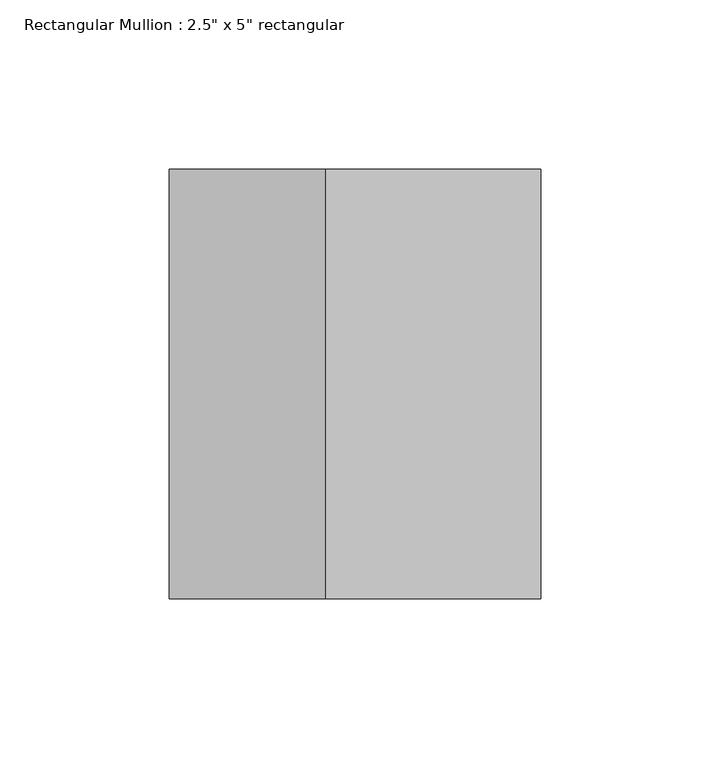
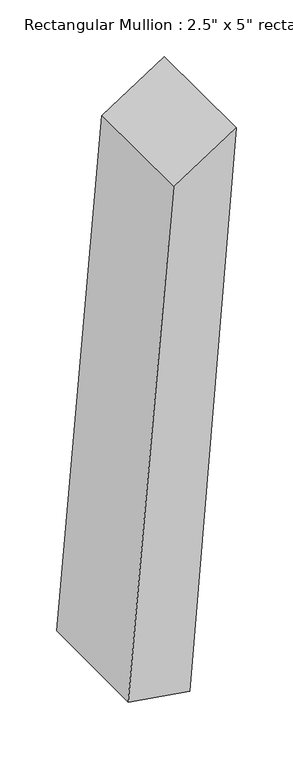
"""IFC4 building model written with IfcOpenShell, lengths in millimetres: member geometry."""

from ifc_helpers import new_model, si_unit, point, frame, frame_2d, origin, place, context, project, spatial, polyline, circle_curve, trimmed, segment, composite_curve, outline, extrude, source, transform, mapped, element, save


def member_44ea0774(model_context):
    return source(origin(), model_context, "Body", "SweptSolid", [
        extrude(outline(composite_curve([segment(trimmed(circle_curve(frame_2d((0.0, -3722.1588985)), 3722.1588985), [point((-591.0050335, -47.2194546))], [point((0.0, 0.0))], False, "CARTESIAN"), True, "CONTINUOUS"), segment(polyline([(0.0, 0.0), (-41.3165415, -63.7332974)]), True, "CONTINUOUS"), segment(trimmed(circle_curve(frame_2d((0.0, -3722.1588985)), 3658.6588985), [point((-41.3165415, -63.7332974))], [point((-580.9224925, -109.9138911))], True, "CARTESIAN"), True, "CONTINUOUS"), segment(polyline([(-580.9224925, -109.9138911), (-591.0050335, -47.2194546)]), True, "CONTINUOUS")], self_intersect=False)), frame((0.0, -63.5, 0.0), z_axis=(0.0, 1.0, 0.0), x_axis=(0.0, 0.0, 1.0)), (0.0, 0.0, 1.0), 127.0),
    ])


if __name__ == "__main__":
    model = new_model("IFC4")
    model_context = context("Model", 3, world=origin())
    ifc_project = project(units=[si_unit("LENGTHUNIT", "METRE", prefix="MILLI")], contexts=[model_context])
    site = spatial("IfcSite", under=ifc_project)
    building = spatial("IfcBuilding", under=site)
    placement = place(None, origin())
    member_shape = member_44ea0774(model_context)
    element("IfcMember", 1, ObjectType="Rectangular Mullion : 2.5\" x 5\" rectangular", at=placement, inside=building, context=model_context, shape_type="MappedRepresentation", body=[
        mapped(member_shape, transform((0.0, 0.0, 0.0), x_axis=(1.0, 0.0, 0.0), y_axis=(0.0, 1.0, 0.0), z_axis=(0.0, 0.0, 1.0))),
    ])
    save(model, "model.ifc")
